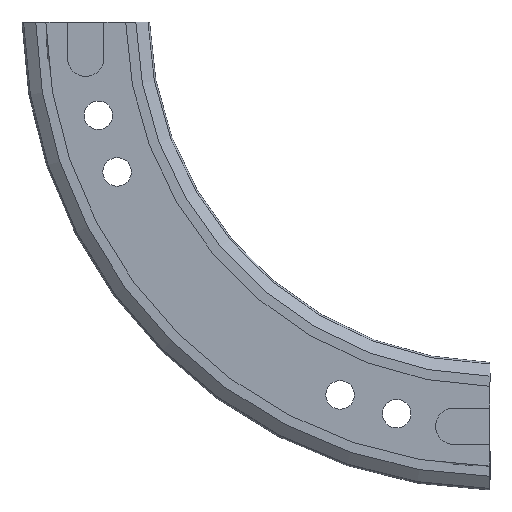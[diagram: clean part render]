
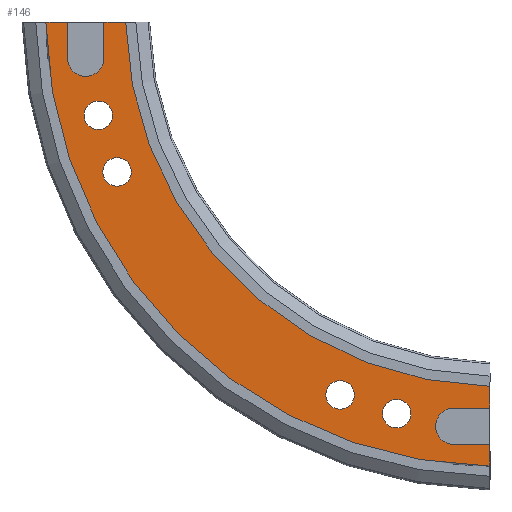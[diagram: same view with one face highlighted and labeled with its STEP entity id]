
A CAD part, front view. The second image highlights one B-rep face of the part: STEP entity #146.
In plain terms, the highlighted planar face has unit normal (0, -1, 0).
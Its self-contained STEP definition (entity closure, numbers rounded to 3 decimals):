
#146 = ADVANCED_FACE( '', ( #320, #321, #322, #323, #324 ), #325, .T. );
#320 = FACE_BOUND( '', #500, .T. );
#321 = FACE_BOUND( '', #501, .T. );
#322 = FACE_BOUND( '', #502, .T. );
#323 = FACE_BOUND( '', #503, .T. );
#324 = FACE_OUTER_BOUND( '', #504, .T. );
#325 = PLANE( '', #505 );
#500 = EDGE_LOOP( '', ( #1035 ) );
#501 = EDGE_LOOP( '', ( #1036 ) );
#502 = EDGE_LOOP( '', ( #1037 ) );
#503 = EDGE_LOOP( '', ( #1038 ) );
#504 = EDGE_LOOP( '', ( #1039, #1040, #1041, #1042, #1043, #1044, #1045, #1046, #1047, #1048, #1049, #1050 ) );
#505 = AXIS2_PLACEMENT_3D( '', #1051, #1052, #1053 );
#1035 = ORIENTED_EDGE( '', *, *, #1223, .F. );
#1036 = ORIENTED_EDGE( '', *, *, #1219, .F. );
#1037 = ORIENTED_EDGE( '', *, *, #1112, .F. );
#1038 = ORIENTED_EDGE( '', *, *, #1116, .F. );
#1039 = ORIENTED_EDGE( '', *, *, #1097, .T. );
#1040 = ORIENTED_EDGE( '', *, *, #1102, .T. );
#1041 = ORIENTED_EDGE( '', *, *, #1125, .T. );
#1042 = ORIENTED_EDGE( '', *, *, #1121, .T. );
#1043 = ORIENTED_EDGE( '', *, *, #1070, .T. );
#1044 = ORIENTED_EDGE( '', *, *, #1111, .T. );
#1045 = ORIENTED_EDGE( '', *, *, #1109, .T. );
#1046 = ORIENTED_EDGE( '', *, *, #1107, .T. );
#1047 = ORIENTED_EDGE( '', *, *, #1086, .T. );
#1048 = ORIENTED_EDGE( '', *, *, #1235, .F. );
#1049 = ORIENTED_EDGE( '', *, *, #1126, .T. );
#1050 = ORIENTED_EDGE( '', *, *, #1100, .T. );
#1051 = CARTESIAN_POINT( '', ( -71.8, 0., 0. ) );
#1052 = DIRECTION( '', ( 0., -1., 0. ) );
#1053 = DIRECTION( '', ( 0., 0., -1. ) );
#1070 = EDGE_CURVE( '', #1241, #1239, #1242, .T. );
#1086 = EDGE_CURVE( '', #1273, #1271, #1274, .T. );
#1097 = EDGE_CURVE( '', #1293, #1294, #1295, .T. );
#1100 = EDGE_CURVE( '', #1298, #1293, #1299, .T. );
#1102 = EDGE_CURVE( '', #1294, #1301, #1302, .T. );
#1107 = EDGE_CURVE( '', #1309, #1273, #1310, .T. );
#1109 = EDGE_CURVE( '', #1312, #1309, #1313, .T. );
#1111 = EDGE_CURVE( '', #1239, #1312, #1315, .T. );
#1112 = EDGE_CURVE( '', #1316, #1316, #1317, .T. );
#1116 = EDGE_CURVE( '', #1324, #1324, #1325, .T. );
#1121 = EDGE_CURVE( '', #1334, #1241, #1335, .T. );
#1125 = EDGE_CURVE( '', #1301, #1334, #1341, .T. );
#1126 = EDGE_CURVE( '', #1342, #1298, #1343, .T. );
#1219 = EDGE_CURVE( '', #1502, #1502, #1503, .T. );
#1223 = EDGE_CURVE( '', #1510, #1510, #1511, .T. );
#1235 = EDGE_CURVE( '', #1342, #1271, #1523, .T. );
#1239 = VERTEX_POINT( '', #1528 );
#1241 = VERTEX_POINT( '', #1531 );
#1242 = LINE( '', #1532, #1533 );
#1271 = VERTEX_POINT( '', #1600 );
#1273 = VERTEX_POINT( '', #1603 );
#1274 = LINE( '', #1604, #1605 );
#1293 = VERTEX_POINT( '', #1686 );
#1294 = VERTEX_POINT( '', #1687 );
#1295 = CIRCLE( '', #1688, 3.5 );
#1298 = VERTEX_POINT( '', #1693 );
#1299 = LINE( '', #1694, #1695 );
#1301 = VERTEX_POINT( '', #1698 );
#1302 = LINE( '', #1699, #1700 );
#1309 = VERTEX_POINT( '', #1710 );
#1310 = LINE( '', #1711, #1712 );
#1312 = VERTEX_POINT( '', #1715 );
#1313 = CIRCLE( '', #1716, 3.5 );
#1315 = LINE( '', #1719, #1720 );
#1316 = VERTEX_POINT( '', #1721 );
#1317 = CIRCLE( '', #1722, 2.75 );
#1324 = VERTEX_POINT( '', #1729 );
#1325 = CIRCLE( '', #1730, 2.75 );
#1334 = VERTEX_POINT( '', #1796 );
#1335 = CIRCLE( '', #1797, 87.2 );
#1341 = LINE( '', #1859, #1860 );
#1342 = VERTEX_POINT( '', #1861 );
#1343 = LINE( '', #1862, #1863 );
#1502 = VERTEX_POINT( '', #2186 );
#1503 = CIRCLE( '', #2187, 2.75 );
#1510 = VERTEX_POINT( '', #2194 );
#1511 = CIRCLE( '', #2195, 2.75 );
#1523 = CIRCLE( '', #2207, 71.8 );
#1528 = CARTESIAN_POINT( '', ( -1.5, 0., -83. ) );
#1531 = CARTESIAN_POINT( '', ( -1.5, 0., -87.187 ) );
#1532 = CARTESIAN_POINT( '', ( -1.5, 0., -92.37 ) );
#1533 = VECTOR( '', #2210, 1000. );
#1600 = CARTESIAN_POINT( '', ( -1.5, 0., -71.784 ) );
#1603 = CARTESIAN_POINT( '', ( -1.5, 0., -76. ) );
#1604 = CARTESIAN_POINT( '', ( -1.5, 0., -92.37 ) );
#1605 = VECTOR( '', #2220, 1000. );
#1686 = CARTESIAN_POINT( '', ( -76., 0., -8.5 ) );
#1687 = CARTESIAN_POINT( '', ( -83., 0., -8.5 ) );
#1688 = AXIS2_PLACEMENT_3D( '', #2237, #2238, #2239 );
#1693 = CARTESIAN_POINT( '', ( -76., 0., -1.5 ) );
#1694 = CARTESIAN_POINT( '', ( -76., 0., 0. ) );
#1695 = VECTOR( '', #2242, 1000. );
#1698 = CARTESIAN_POINT( '', ( -83., 0., -1.5 ) );
#1699 = CARTESIAN_POINT( '', ( -83., 0., -8.5 ) );
#1700 = VECTOR( '', #2244, 1000. );
#1710 = CARTESIAN_POINT( '', ( -8.5, 0., -76. ) );
#1711 = CARTESIAN_POINT( '', ( -8.5, 0., -76. ) );
#1712 = VECTOR( '', #2251, 1000. );
#1715 = CARTESIAN_POINT( '', ( -8.5, 0., -83. ) );
#1716 = AXIS2_PLACEMENT_3D( '', #2253, #2254, #2255 );
#1719 = CARTESIAN_POINT( '', ( 0., 0., -83. ) );
#1720 = VECTOR( '', #2257, 1000. );
#1721 = CARTESIAN_POINT( '', ( -73.448, 0., -33.173 ) );
#1722 = AXIS2_PLACEMENT_3D( '', #2258, #2259, #2260 );
#1729 = CARTESIAN_POINT( '', ( -30.423, 0., -76.198 ) );
#1730 = AXIS2_PLACEMENT_3D( '', #2270, #2271, #2272 );
#1796 = CARTESIAN_POINT( '', ( -87.187, 0., -1.5 ) );
#1797 = AXIS2_PLACEMENT_3D( '', #2282, #2283, #2284 );
#1859 = CARTESIAN_POINT( '', ( -1.5, 0., -1.5 ) );
#1860 = VECTOR( '', #2289, 1000. );
#1861 = CARTESIAN_POINT( '', ( -71.784, 0., -1.5 ) );
#1862 = CARTESIAN_POINT( '', ( -1.5, 0., -1.5 ) );
#1863 = VECTOR( '', #2290, 1000. );
#2186 = CARTESIAN_POINT( '', ( -19.502, 0., -79.821 ) );
#2187 = AXIS2_PLACEMENT_3D( '', #2389, #2390, #2391 );
#2194 = CARTESIAN_POINT( '', ( -77.071, 0., -22.252 ) );
#2195 = AXIS2_PLACEMENT_3D( '', #2401, #2402, #2403 );
#2207 = AXIS2_PLACEMENT_3D( '', #2437, #2438, #2439 );
#2210 = DIRECTION( '', ( 0., 0., 1. ) );
#2220 = DIRECTION( '', ( 0., 0., 1. ) );
#2237 = CARTESIAN_POINT( '', ( -79.5, 0., -8.5 ) );
#2238 = DIRECTION( '', ( 0., 1., 0. ) );
#2239 = DIRECTION( '', ( 1., 0., 0. ) );
#2242 = DIRECTION( '', ( 0., 0., -1. ) );
#2244 = DIRECTION( '', ( 0., 0., 1. ) );
#2251 = DIRECTION( '', ( 1., 0., 0. ) );
#2253 = CARTESIAN_POINT( '', ( -8.5, 0., -79.5 ) );
#2254 = DIRECTION( '', ( 0., 1., 0. ) );
#2255 = DIRECTION( '', ( 1., 0., 0. ) );
#2257 = DIRECTION( '', ( -1., 0., 0. ) );
#2258 = CARTESIAN_POINT( '', ( -73.448, 0., -30.423 ) );
#2259 = DIRECTION( '', ( 0., -1., 0. ) );
#2260 = DIRECTION( '', ( 0., 0., -1. ) );
#2270 = CARTESIAN_POINT( '', ( -30.423, 0., -73.448 ) );
#2271 = DIRECTION( '', ( 0., -1., 0. ) );
#2272 = DIRECTION( '', ( 0., 0., -1. ) );
#2282 = CARTESIAN_POINT( '', ( 0., 0., 0. ) );
#2283 = DIRECTION( '', ( 0., -1., 0. ) );
#2284 = DIRECTION( '', ( 0., 0., -1. ) );
#2289 = DIRECTION( '', ( -1., 0., 0. ) );
#2290 = DIRECTION( '', ( -1., 0., 0. ) );
#2389 = CARTESIAN_POINT( '', ( -19.502, 0., -77.071 ) );
#2390 = DIRECTION( '', ( 0., -1., 0. ) );
#2391 = DIRECTION( '', ( 0., 0., -1. ) );
#2401 = CARTESIAN_POINT( '', ( -77.071, 0., -19.502 ) );
#2402 = DIRECTION( '', ( 0., -1., 0. ) );
#2403 = DIRECTION( '', ( 0., 0., -1. ) );
#2437 = CARTESIAN_POINT( '', ( 0., 0., 0. ) );
#2438 = DIRECTION( '', ( 0., -1., 0. ) );
#2439 = DIRECTION( '', ( 0., 0., -1. ) );
